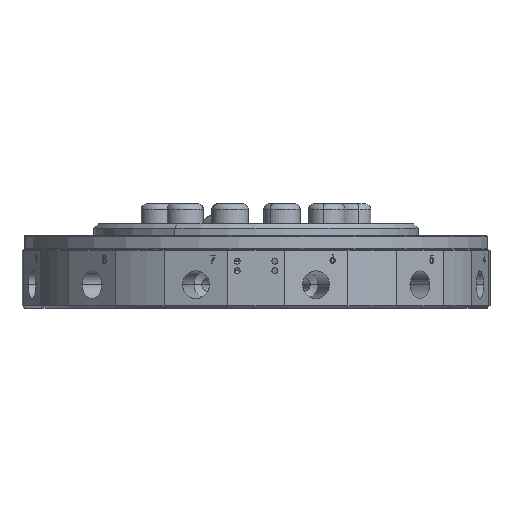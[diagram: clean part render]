
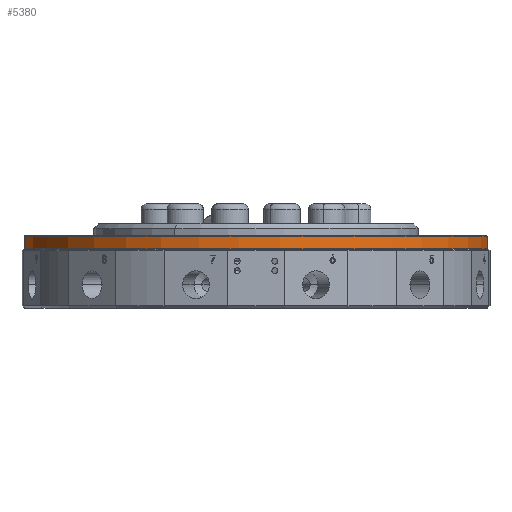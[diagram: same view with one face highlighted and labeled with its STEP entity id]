
A CAD part, front view. The second image highlights one B-rep face of the part: STEP entity #5380.
In plain terms, the highlighted cylindrical face has radius 98.5 mm (diameter 197 mm), a partial arc.
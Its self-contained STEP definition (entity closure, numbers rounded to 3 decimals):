
#1234 = VERTEX_POINT ( 'NONE', #27925 ) ;
#2684 = ORIENTED_EDGE ( 'NONE', *, *, #29416, .T. ) ;
#3229 = CYLINDRICAL_SURFACE ( 'NONE', #49889, 98.5 ) ;
#5380 = ADVANCED_FACE ( 'NONE', ( #37172 ), #3229, .T. ) ;
#5665 = VECTOR ( 'NONE', #30753, 1000. ) ;
#5890 = DIRECTION ( 'NONE',  ( 0., 0., 1. ) ) ;
#10288 = VERTEX_POINT ( 'NONE', #54017 ) ;
#11408 = AXIS2_PLACEMENT_3D ( 'NONE', #31333, #5890, #35614 ) ;
#12238 = CIRCLE ( 'NONE', #18447, 98.5 ) ;
#14530 = EDGE_CURVE ( 'NONE', #17125, #33614, #54680, .T. ) ;
#15765 = DIRECTION ( 'NONE',  ( 0., 0., 1. ) ) ;
#17125 = VERTEX_POINT ( 'NONE', #26866 ) ;
#18447 = AXIS2_PLACEMENT_3D ( 'NONE', #21030, #50705, #25285 ) ;
#19004 = DIRECTION ( 'NONE',  ( 0.995, 0.102, 0. ) ) ;
#20794 = ORIENTED_EDGE ( 'NONE', *, *, #46542, .F. ) ;
#21030 = CARTESIAN_POINT ( 'NONE',  ( 0., 0., -25.2 ) ) ;
#22158 = VECTOR ( 'NONE', #15765, 1000. ) ;
#25285 = DIRECTION ( 'NONE',  ( -0.995, -0.102, 0. ) ) ;
#26866 = CARTESIAN_POINT ( 'NONE',  ( 97.988, 10.025, -30.5 ) ) ;
#27925 = CARTESIAN_POINT ( 'NONE',  ( -97.988, -10.025, -25.2 ) ) ;
#28974 = CARTESIAN_POINT ( 'NONE',  ( 97.988, 10.025, -25.2 ) ) ;
#29416 = EDGE_CURVE ( 'NONE', #33614, #1234, #12238, .T. ) ;
#30468 = EDGE_CURVE ( 'NONE', #10288, #17125, #38657, .T. ) ;
#30753 = DIRECTION ( 'NONE',  ( 0., 0., 1. ) ) ;
#31333 = CARTESIAN_POINT ( 'NONE',  ( 0., 0., -30.5 ) ) ;
#33614 = VERTEX_POINT ( 'NONE', #28974 ) ;
#35614 = DIRECTION ( 'NONE',  ( -0.995, -0.102, 0. ) ) ;
#37172 = FACE_OUTER_BOUND ( 'NONE', #49903, .T. ) ;
#38657 = CIRCLE ( 'NONE', #11408, 98.5 ) ;
#39537 = LINE ( 'NONE', #51903, #5665 ) ;
#40132 = DIRECTION ( 'NONE',  ( 0., 0., 1. ) ) ;
#42273 = ORIENTED_EDGE ( 'NONE', *, *, #30468, .T. ) ;
#46542 = EDGE_CURVE ( 'NONE', #10288, #1234, #39537, .T. ) ;
#49505 = ORIENTED_EDGE ( 'NONE', *, *, #14530, .T. ) ;
#49889 = AXIS2_PLACEMENT_3D ( 'NONE', #52898, #40132, #19004 ) ;
#49903 = EDGE_LOOP ( 'NONE', ( #20794, #42273, #49505, #2684 ) ) ;
#50705 = DIRECTION ( 'NONE',  ( 0., 0., -1. ) ) ;
#51903 = CARTESIAN_POINT ( 'NONE',  ( -97.988, -10.025, -30.7 ) ) ;
#52898 = CARTESIAN_POINT ( 'NONE',  ( 0., 0., -30.7 ) ) ;
#53951 = CARTESIAN_POINT ( 'NONE',  ( 97.988, 10.025, -30.7 ) ) ;
#54017 = CARTESIAN_POINT ( 'NONE',  ( -97.988, -10.025, -30.5 ) ) ;
#54680 = LINE ( 'NONE', #53951, #22158 ) ;
